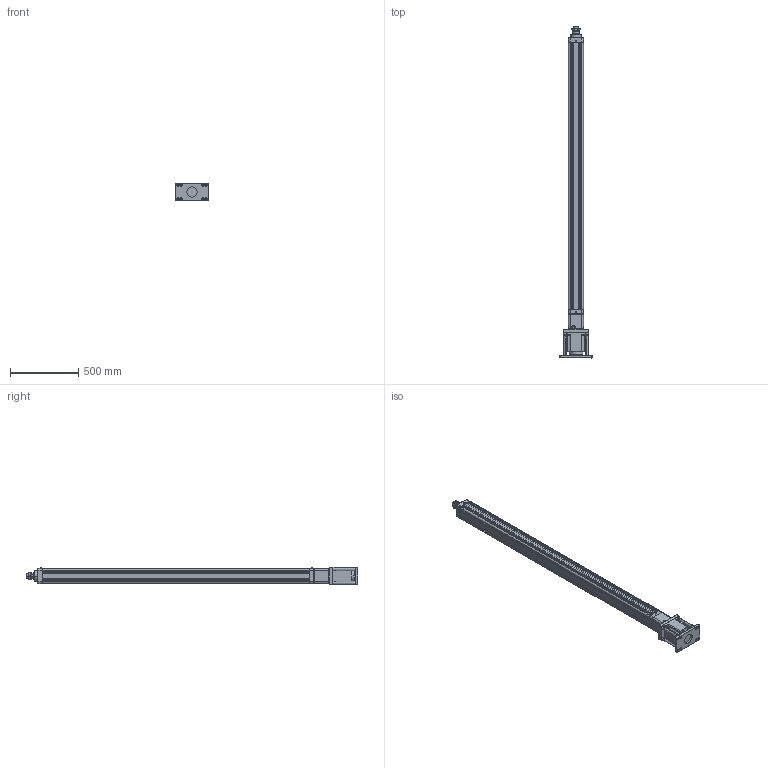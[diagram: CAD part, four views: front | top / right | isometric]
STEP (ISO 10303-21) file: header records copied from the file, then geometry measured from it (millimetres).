
FILE_DESCRIPTION((''),'2;1');
FILE_NAME('HE100-D-P_ASM','2020-04-21T',('ASUS20200'),(''),'CREO PARAMETRIC BY PTC INC, 2014190','CREO PARAMETRIC BY PTC INC, 2014190','');
FILE_SCHEMA(('CONFIG_CONTROL_DESIGN'));
Length unit declared in the file: millimetre
Products named in the file (23): HE100-D-P-001-X1; HE100-D-P-002-X1; HE100-D-P-003-X1; 30305J; JDB506030; SLM-01; YZ-M6X1; HE100-100-D-P-X1_ASM; HE100-D-009-X1; HE100-D-010-X1-130N; M8X20; 130ST-M10010; TD-8; M8X40; SKT-20; HE100-D-P-005-X1; HE100-D-P-004-X1; HE80-D-P-008-X1; LGLM-M10-25; HE100-FB-LG; F-HE100FB; M10X30; HE100-D-P_ASM
Assembly tree (46 placements, depth 3):
  HE100-D-P_ASM
    HE100-100-D-P-X1_ASM
      HE100-D-P-001-X1
      HE100-D-P-002-X1
      HE100-D-P-003-X1
      30305J  x2
      JDB506030
      SLM-01
      YZ-M6X1
    HE100-D-009-X1
    HE100-D-010-X1-130N
    M8X20  x4
    130ST-M10010
    TD-8  x4
    M8X40  x4
    SKT-20  x2
    HE100-D-P-005-X1
    HE100-D-P-004-X1
    HE80-D-P-008-X1
    LGLM-M10-25  x4
    HE100-FB-LG  x4
    F-HE100FB
    M10X30  x8
Bounding box: 240 x 2432 x 130 mm (x, y, z)
Volume: 11179436.6 mm3; surface area: 3176040.6 mm2
Topology: 45 solids, 76 shells, 1961 faces, 4507 edges, 2750 vertices
Faces by surface type: plane 662, cone 578, cylinder 573, torus 114, sphere 30, bspline 4
Entity records: 41263 total; most frequent: CARTESIAN_POINT 7773, DIRECTION 7518, ORIENTED_EDGE 6340, EDGE_CURVE 3217, AXIS2_PLACEMENT_3D 2949, VERTEX_POINT 1964, EDGE_LOOP 1655, VECTOR 1620
